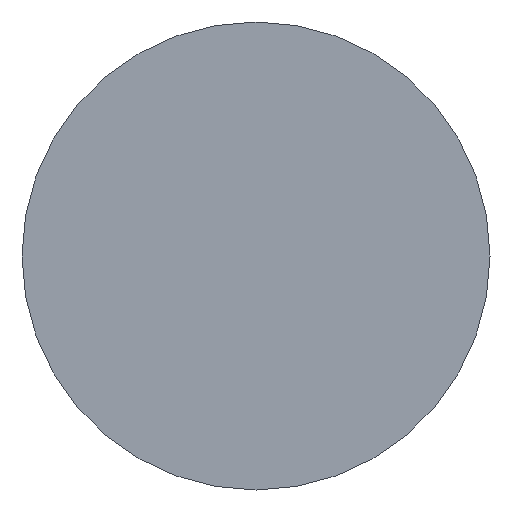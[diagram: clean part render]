
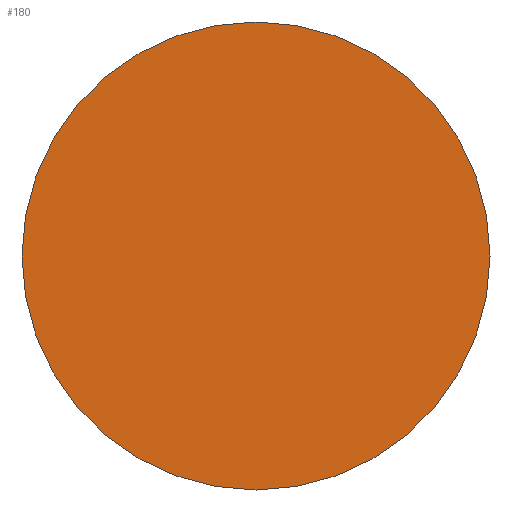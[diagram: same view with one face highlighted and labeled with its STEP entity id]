
A CAD part, front view. The second image highlights one B-rep face of the part: STEP entity #180.
In plain terms, the highlighted planar face has unit normal (0, -1, 0).
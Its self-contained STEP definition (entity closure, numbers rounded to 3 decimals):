
#4 = EDGE_LOOP ( 'NONE', ( #175, #457 ) ) ;
#31 = DIRECTION ( 'NONE',  ( 0., 0., -1. ) ) ;
#33 = DIRECTION ( 'NONE',  ( 0., -1., 0. ) ) ;
#37 = VERTEX_POINT ( 'NONE', #95 ) ;
#62 = AXIS2_PLACEMENT_3D ( 'NONE', #233, #33, #106 ) ;
#95 = CARTESIAN_POINT ( 'NONE',  ( 0., 0., -6. ) ) ;
#101 = AXIS2_PLACEMENT_3D ( 'NONE', #110, #463, #31 ) ;
#106 = DIRECTION ( 'NONE',  ( 0., 0., -1. ) ) ;
#110 = CARTESIAN_POINT ( 'NONE',  ( 6., 0., 0. ) ) ;
#175 = ORIENTED_EDGE ( 'NONE', *, *, #213, .T. ) ;
#180 = ADVANCED_FACE ( 'NONE', ( #257 ), #236, .T. ) ;
#194 = CARTESIAN_POINT ( 'NONE',  ( 0., 0., 0. ) ) ;
#213 = EDGE_CURVE ( 'NONE', #37, #421, #278, .T. ) ;
#233 = CARTESIAN_POINT ( 'NONE',  ( 0., 0., 0. ) ) ;
#236 = PLANE ( 'NONE',  #101 ) ;
#257 = FACE_OUTER_BOUND ( 'NONE', #4, .T. ) ;
#278 = CIRCLE ( 'NONE', #343, 6. ) ;
#285 = EDGE_CURVE ( 'NONE', #421, #37, #492, .T. ) ;
#343 = AXIS2_PLACEMENT_3D ( 'NONE', #194, #456, #346 ) ;
#346 = DIRECTION ( 'NONE',  ( 0., 0., -1. ) ) ;
#396 = CARTESIAN_POINT ( 'NONE',  ( 0., 0., 6. ) ) ;
#421 = VERTEX_POINT ( 'NONE', #396 ) ;
#456 = DIRECTION ( 'NONE',  ( 0., -1., 0. ) ) ;
#457 = ORIENTED_EDGE ( 'NONE', *, *, #285, .T. ) ;
#463 = DIRECTION ( 'NONE',  ( 0., -1., 0. ) ) ;
#492 = CIRCLE ( 'NONE', #62, 6. ) ;
